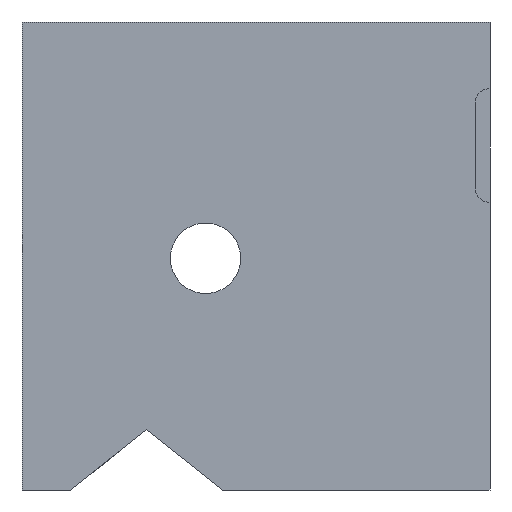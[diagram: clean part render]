
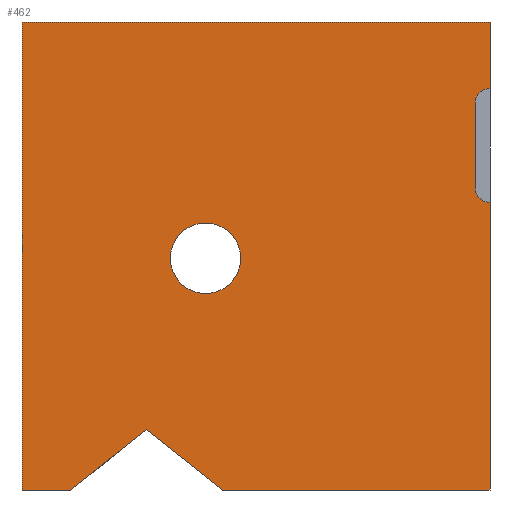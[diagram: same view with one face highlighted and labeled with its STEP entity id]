
A CAD part, front view. The second image highlights one B-rep face of the part: STEP entity #462.
In plain terms, the highlighted planar face has unit normal (0, -1, 0).
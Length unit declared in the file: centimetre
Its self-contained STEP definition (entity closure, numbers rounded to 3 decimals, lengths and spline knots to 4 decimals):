
#8 = AXIS2_PLACEMENT_3D ( 'NONE', #115, #581, #120 ) ;
#14 = EDGE_CURVE ( 'NONE', #156, #305, #1033, .T. ) ;
#23 = AXIS2_PLACEMENT_3D ( 'NONE', #173, #780, #69 ) ;
#33 = EDGE_CURVE ( 'NONE', #1073, #368, #41, .T. ) ;
#40 = ORIENTED_EDGE ( 'NONE', *, *, #84, .F. ) ;
#41 = CIRCLE ( 'NONE', #337, 75.2257 ) ;
#62 = AXIS2_PLACEMENT_3D ( 'NONE', #145, #71, #782 ) ;
#69 = DIRECTION ( 'NONE',  ( 0., 0., 1. ) ) ;
#71 = DIRECTION ( 'NONE',  ( 0., 1., 0. ) ) ;
#84 = EDGE_CURVE ( 'NONE', #305, #540, #534, .T. ) ;
#98 = EDGE_CURVE ( 'NONE', #151, #798, #685, .T. ) ;
#115 = CARTESIAN_POINT ( 'NONE',  ( 392.2179, 0., 495.0498 ) ) ;
#120 = DIRECTION ( 'NONE',  ( 0., 0., 1. ) ) ;
#135 = ORIENTED_EDGE ( 'NONE', *, *, #755, .F. ) ;
#144 = EDGE_CURVE ( 'NONE', #224, #156, #961, .T. ) ;
#145 = CARTESIAN_POINT ( 'NONE',  ( 0., 0., 1000. ) ) ;
#151 = VERTEX_POINT ( 'NONE', #867 ) ;
#153 = ORIENTED_EDGE ( 'NONE', *, *, #698, .T. ) ;
#156 = VERTEX_POINT ( 'NONE', #178 ) ;
#163 = CIRCLE ( 'NONE', #8, 75.2257 ) ;
#172 = CARTESIAN_POINT ( 'NONE',  ( 968.1109, 0., 646.2792 ) ) ;
#173 = CARTESIAN_POINT ( 'NONE',  ( 1000., 0., 646.2792 ) ) ;
#178 = CARTESIAN_POINT ( 'NONE',  ( 968.1109, 0., 826.031 ) ) ;
#179 = CARTESIAN_POINT ( 'NONE',  ( 1000., 0., 1000. ) ) ;
#183 = VECTOR ( 'NONE', #752, 100. ) ;
#220 = VERTEX_POINT ( 'NONE', #672 ) ;
#224 = VERTEX_POINT ( 'NONE', #508 ) ;
#240 = VERTEX_POINT ( 'NONE', #863 ) ;
#251 = PLANE ( 'NONE',  #62 ) ;
#298 = AXIS2_PLACEMENT_3D ( 'NONE', #789, #701, #1060 ) ;
#299 = VECTOR ( 'NONE', #933, 100. ) ;
#305 = VERTEX_POINT ( 'NONE', #172 ) ;
#309 = LINE ( 'NONE', #759, #299 ) ;
#314 = ORIENTED_EDGE ( 'NONE', *, *, #144, .F. ) ;
#328 = VERTEX_POINT ( 'NONE', #579 ) ;
#337 = AXIS2_PLACEMENT_3D ( 'NONE', #1129, #792, #977 ) ;
#343 = CARTESIAN_POINT ( 'NONE',  ( 392.2179, 0., 570.2755 ) ) ;
#345 = EDGE_CURVE ( 'NONE', #540, #798, #727, .T. ) ;
#349 = ORIENTED_EDGE ( 'NONE', *, *, #33, .T. ) ;
#352 = VERTEX_POINT ( 'NONE', #1086 ) ;
#368 = VERTEX_POINT ( 'NONE', #485 ) ;
#369 = DIRECTION ( 'NONE',  ( 0., 0., -1. ) ) ;
#400 = VECTOR ( 'NONE', #573, 100. ) ;
#403 = ORIENTED_EDGE ( 'NONE', *, *, #852, .F. ) ;
#422 = CARTESIAN_POINT ( 'NONE',  ( 1000., 0., 614.3901 ) ) ;
#443 = EDGE_LOOP ( 'NONE', ( #776, #40, #912, #314, #895, #403, #622, #153, #512, #135, #682 ) ) ;
#462 = ADVANCED_FACE ( 'NONE', ( #597, #763 ), #251, .F. ) ;
#473 = VECTOR ( 'NONE', #855, 100. ) ;
#485 = CARTESIAN_POINT ( 'NONE',  ( 392.2179, 0., 419.8241 ) ) ;
#507 = CARTESIAN_POINT ( 'NONE',  ( 968.1109, 0., 646.2792 ) ) ;
#508 = CARTESIAN_POINT ( 'NONE',  ( 1000., 0., 857.92 ) ) ;
#512 = ORIENTED_EDGE ( 'NONE', *, *, #904, .F. ) ;
#525 = DIRECTION ( 'NONE',  ( 1., 0., 0. ) ) ;
#534 = CIRCLE ( 'NONE', #23, 31.8891 ) ;
#540 = VERTEX_POINT ( 'NONE', #422 ) ;
#542 = VERTEX_POINT ( 'NONE', #603 ) ;
#546 = CARTESIAN_POINT ( 'NONE',  ( 1000., 0., 0. ) ) ;
#573 = DIRECTION ( 'NONE',  ( 0., 0., -1. ) ) ;
#579 = CARTESIAN_POINT ( 'NONE',  ( 266.6342, 0., 129.1606 ) ) ;
#581 = DIRECTION ( 'NONE',  ( 0., 1., 0. ) ) ;
#584 = CARTESIAN_POINT ( 'NONE',  ( 1000., 0., 1000. ) ) ;
#597 = FACE_BOUND ( 'NONE', #1126, .T. ) ;
#603 = CARTESIAN_POINT ( 'NONE',  ( 0., 0., 0. ) ) ;
#622 = ORIENTED_EDGE ( 'NONE', *, *, #984, .T. ) ;
#631 = DIRECTION ( 'NONE',  ( -0.783, 0., 0.622 ) ) ;
#672 = CARTESIAN_POINT ( 'NONE',  ( 103.8704, 0., 0. ) ) ;
#675 = VECTOR ( 'NONE', #829, 100. ) ;
#682 = ORIENTED_EDGE ( 'NONE', *, *, #98, .T. ) ;
#685 = LINE ( 'NONE', #1051, #1115 ) ;
#698 = EDGE_CURVE ( 'NONE', #542, #220, #1139, .T. ) ;
#701 = DIRECTION ( 'NONE',  ( 0., -1., 0. ) ) ;
#713 = VECTOR ( 'NONE', #525, 100. ) ;
#727 = LINE ( 'NONE', #584, #400 ) ;
#752 = DIRECTION ( 'NONE',  ( -0.783, 0., -0.622 ) ) ;
#755 = EDGE_CURVE ( 'NONE', #151, #328, #985, .T. ) ;
#759 = CARTESIAN_POINT ( 'NONE',  ( 0., 0., 1000. ) ) ;
#762 = EDGE_CURVE ( 'NONE', #240, #224, #794, .T. ) ;
#763 = FACE_OUTER_BOUND ( 'NONE', #443, .T. ) ;
#776 = ORIENTED_EDGE ( 'NONE', *, *, #345, .F. ) ;
#780 = DIRECTION ( 'NONE',  ( 0., -1., 0. ) ) ;
#782 = DIRECTION ( 'NONE',  ( 0., 0., 1. ) ) ;
#789 = CARTESIAN_POINT ( 'NONE',  ( 1000., 0., 826.031 ) ) ;
#792 = DIRECTION ( 'NONE',  ( 0., 1., 0. ) ) ;
#794 = LINE ( 'NONE', #179, #982 ) ;
#798 = VERTEX_POINT ( 'NONE', #546 ) ;
#808 = CARTESIAN_POINT ( 'NONE',  ( 266.6342, 0., 129.1606 ) ) ;
#829 = DIRECTION ( 'NONE',  ( 0., 0., -1. ) ) ;
#832 = CARTESIAN_POINT ( 'NONE',  ( 0., 0., 1000. ) ) ;
#843 = CARTESIAN_POINT ( 'NONE',  ( 103.8704, 0., 0. ) ) ;
#852 = EDGE_CURVE ( 'NONE', #352, #240, #309, .T. ) ;
#855 = DIRECTION ( 'NONE',  ( 0., 0., -1. ) ) ;
#863 = CARTESIAN_POINT ( 'NONE',  ( 1000., 0., 1000. ) ) ;
#867 = CARTESIAN_POINT ( 'NONE',  ( 429.398, 0., 0. ) ) ;
#895 = ORIENTED_EDGE ( 'NONE', *, *, #762, .F. ) ;
#904 = EDGE_CURVE ( 'NONE', #328, #220, #922, .T. ) ;
#912 = ORIENTED_EDGE ( 'NONE', *, *, #14, .F. ) ;
#922 = LINE ( 'NONE', #843, #183 ) ;
#933 = DIRECTION ( 'NONE',  ( 1., 0., 0. ) ) ;
#961 = CIRCLE ( 'NONE', #298, 31.8891 ) ;
#969 = CARTESIAN_POINT ( 'NONE',  ( 0., 0., 0. ) ) ;
#977 = DIRECTION ( 'NONE',  ( 0., 0., 1. ) ) ;
#982 = VECTOR ( 'NONE', #369, 100. ) ;
#984 = EDGE_CURVE ( 'NONE', #352, #542, #1099, .T. ) ;
#985 = LINE ( 'NONE', #808, #1118 ) ;
#1016 = EDGE_CURVE ( 'NONE', #368, #1073, #163, .T. ) ;
#1033 = LINE ( 'NONE', #507, #473 ) ;
#1045 = DIRECTION ( 'NONE',  ( 1., 0., 0. ) ) ;
#1051 = CARTESIAN_POINT ( 'NONE',  ( 0., 0., 0. ) ) ;
#1060 = DIRECTION ( 'NONE',  ( 0., 0., 1. ) ) ;
#1071 = ORIENTED_EDGE ( 'NONE', *, *, #1016, .T. ) ;
#1073 = VERTEX_POINT ( 'NONE', #343 ) ;
#1086 = CARTESIAN_POINT ( 'NONE',  ( 0., 0., 1000. ) ) ;
#1099 = LINE ( 'NONE', #832, #675 ) ;
#1115 = VECTOR ( 'NONE', #1045, 100. ) ;
#1118 = VECTOR ( 'NONE', #631, 100. ) ;
#1126 = EDGE_LOOP ( 'NONE', ( #349, #1071 ) ) ;
#1129 = CARTESIAN_POINT ( 'NONE',  ( 392.2179, 0., 495.0498 ) ) ;
#1139 = LINE ( 'NONE', #969, #713 ) ;
